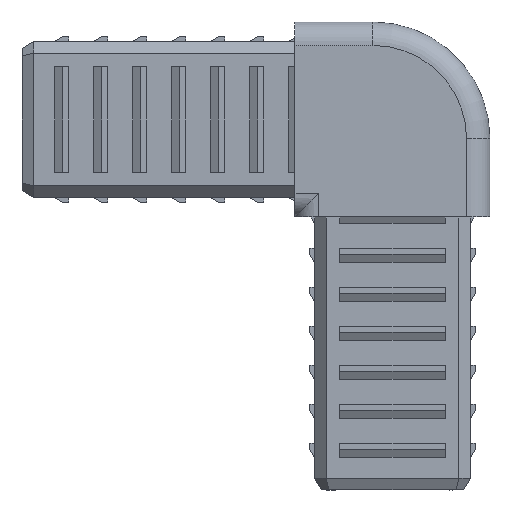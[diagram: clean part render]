
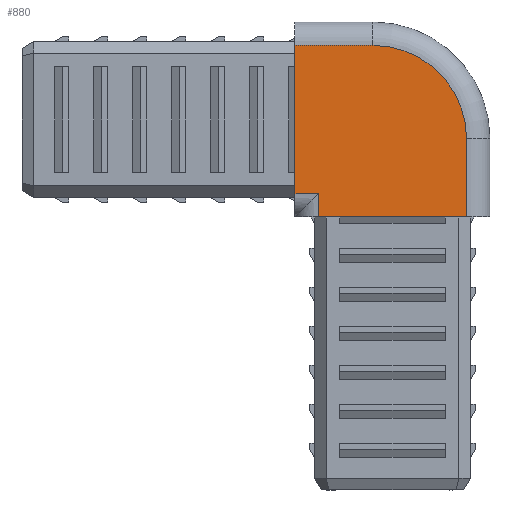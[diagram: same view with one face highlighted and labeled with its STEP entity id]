
A CAD part, left-side view. The second image highlights one B-rep face of the part: STEP entity #880.
In plain terms, the highlighted planar face has unit normal (-1, 0, 0).
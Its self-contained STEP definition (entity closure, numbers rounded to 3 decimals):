
#78 = DIRECTION ( 'NONE',  ( -1., 0., 0. ) ) ;
#145 = EDGE_LOOP ( 'NONE', ( #1690, #9759, #5464, #2362, #10916, #9343, #6279 ) ) ;
#299 = EDGE_CURVE ( 'NONE', #7768, #6914, #10377, .T. ) ;
#469 = LINE ( 'NONE', #2553, #6243 ) ;
#880 = ADVANCED_FACE ( 'NONE', ( #9288 ), #5643, .F. ) ;
#970 = VECTOR ( 'NONE', #1143, 1000. ) ;
#1127 = VERTEX_POINT ( 'NONE', #5455 ) ;
#1143 = DIRECTION ( 'NONE',  ( 0., 0., -1. ) ) ;
#1690 = ORIENTED_EDGE ( 'NONE', *, *, #1905, .T. ) ;
#1829 = AXIS2_PLACEMENT_3D ( 'NONE', #7348, #9585, #9834 ) ;
#1905 = EDGE_CURVE ( 'NONE', #7251, #4476, #8886, .T. ) ;
#2215 = VECTOR ( 'NONE', #7736, 1000. ) ;
#2362 = ORIENTED_EDGE ( 'NONE', *, *, #6766, .T. ) ;
#2507 = VERTEX_POINT ( 'NONE', #2527 ) ;
#2527 = CARTESIAN_POINT ( 'NONE',  ( -12.5, -9.5, -12.5 ) ) ;
#2553 = CARTESIAN_POINT ( 'NONE',  ( -12.5, -12.5, 9.5 ) ) ;
#2672 = CARTESIAN_POINT ( 'NONE',  ( -12.5, -9.5, 12.5 ) ) ;
#2766 = CARTESIAN_POINT ( 'NONE',  ( -12.5, -12.5, -12.5 ) ) ;
#2784 = CARTESIAN_POINT ( 'NONE',  ( -12.5, 9.5, -12.5 ) ) ;
#4236 = LINE ( 'NONE', #2672, #2215 ) ;
#4289 = DIRECTION ( 'NONE',  ( 0., 1., 0. ) ) ;
#4412 = VECTOR ( 'NONE', #6908, 1000. ) ;
#4476 = VERTEX_POINT ( 'NONE', #8057 ) ;
#4513 = CARTESIAN_POINT ( 'NONE',  ( -12.5, 12.5, 12.5 ) ) ;
#5095 = LINE ( 'NONE', #2766, #9339 ) ;
#5207 = LINE ( 'NONE', #6163, #4412 ) ;
#5233 = DIRECTION ( 'NONE',  ( 0., 0., -1. ) ) ;
#5430 = LINE ( 'NONE', #5972, #9023 ) ;
#5455 = CARTESIAN_POINT ( 'NONE',  ( -12.5, 9.5, -9.5 ) ) ;
#5464 = ORIENTED_EDGE ( 'NONE', *, *, #10661, .F. ) ;
#5643 = PLANE ( 'NONE',  #1829 ) ;
#5972 = CARTESIAN_POINT ( 'NONE',  ( -12.5, 9.5, -9.5 ) ) ;
#6102 = VERTEX_POINT ( 'NONE', #2784 ) ;
#6128 = CARTESIAN_POINT ( 'NONE',  ( -12.5, 2.5, -2.5 ) ) ;
#6163 = CARTESIAN_POINT ( 'NONE',  ( -12.5, 9.5, -9.5 ) ) ;
#6243 = VECTOR ( 'NONE', #4289, 1000. ) ;
#6279 = ORIENTED_EDGE ( 'NONE', *, *, #9944, .T. ) ;
#6766 = EDGE_CURVE ( 'NONE', #6102, #2507, #5095, .T. ) ;
#6908 = DIRECTION ( 'NONE',  ( 0., 1., 0. ) ) ;
#6914 = VERTEX_POINT ( 'NONE', #8082 ) ;
#7251 = VERTEX_POINT ( 'NONE', #8514 ) ;
#7348 = CARTESIAN_POINT ( 'NONE',  ( -12.5, -12.5, 12.5 ) ) ;
#7736 = DIRECTION ( 'NONE',  ( 0., 0., 1. ) ) ;
#7768 = VERTEX_POINT ( 'NONE', #9218 ) ;
#8057 = CARTESIAN_POINT ( 'NONE',  ( -12.5, 12.5, -9.5 ) ) ;
#8082 = CARTESIAN_POINT ( 'NONE',  ( -12.5, 2.5, 9.5 ) ) ;
#8514 = CARTESIAN_POINT ( 'NONE',  ( -12.5, 12.5, 9.5 ) ) ;
#8886 = LINE ( 'NONE', #4513, #970 ) ;
#8907 = EDGE_CURVE ( 'NONE', #1127, #4476, #5207, .T. ) ;
#9023 = VECTOR ( 'NONE', #10989, 1000. ) ;
#9218 = CARTESIAN_POINT ( 'NONE',  ( -12.5, -9.5, -2.5 ) ) ;
#9288 = FACE_OUTER_BOUND ( 'NONE', #145, .T. ) ;
#9339 = VECTOR ( 'NONE', #9635, 1000. ) ;
#9343 = ORIENTED_EDGE ( 'NONE', *, *, #299, .T. ) ;
#9585 = DIRECTION ( 'NONE',  ( 1., 0., 0. ) ) ;
#9635 = DIRECTION ( 'NONE',  ( 0., -1., 0. ) ) ;
#9759 = ORIENTED_EDGE ( 'NONE', *, *, #8907, .F. ) ;
#9814 = AXIS2_PLACEMENT_3D ( 'NONE', #6128, #78, #5233 ) ;
#9834 = DIRECTION ( 'NONE',  ( 0., 0., -1. ) ) ;
#9944 = EDGE_CURVE ( 'NONE', #6914, #7251, #469, .T. ) ;
#10084 = EDGE_CURVE ( 'NONE', #2507, #7768, #4236, .T. ) ;
#10377 = CIRCLE ( 'NONE', #9814, 12. ) ;
#10661 = EDGE_CURVE ( 'NONE', #6102, #1127, #5430, .T. ) ;
#10916 = ORIENTED_EDGE ( 'NONE', *, *, #10084, .T. ) ;
#10989 = DIRECTION ( 'NONE',  ( 0., 0., 1. ) ) ;
